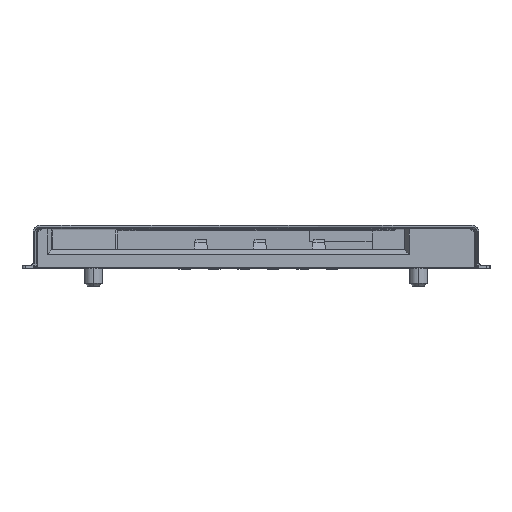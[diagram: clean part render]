
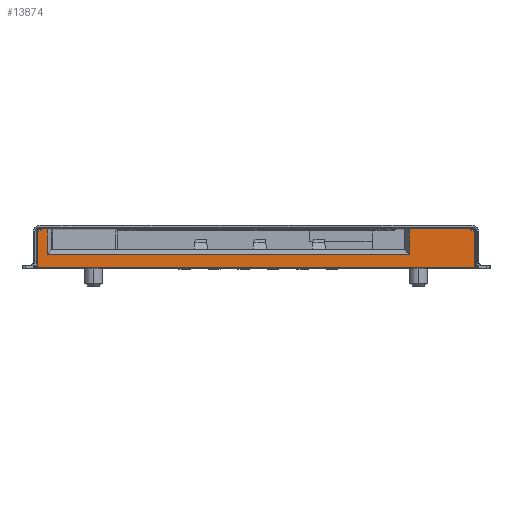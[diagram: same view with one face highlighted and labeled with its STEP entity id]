
A CAD part, top view. The second image highlights one B-rep face of the part: STEP entity #13874.
In plain terms, the highlighted planar face has unit normal (0, 0, 1).
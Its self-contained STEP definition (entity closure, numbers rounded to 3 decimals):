
#647=DIRECTION('',(1.,0.,0.));
#648=VECTOR('',#647,2.6);
#649=CARTESIAN_POINT('',(6.6,0.825,13.425));
#650=LINE('',#649,#648);
#1289=DIRECTION('',(0.,1.,0.));
#1290=VECTOR('',#1289,1.1);
#1291=CARTESIAN_POINT('',(-9.,-0.275,13.425));
#1292=LINE('',#1291,#1290);
#2156=DIRECTION('',(0.,1.,0.));
#2157=VECTOR('',#2156,1.5);
#2158=CARTESIAN_POINT('',(9.4,-0.825,13.425));
#2159=LINE('',#2158,#2157);
#2216=DIRECTION('',(-1.,0.,0.));
#2217=VECTOR('',#2216,18.8);
#2218=CARTESIAN_POINT('',(9.4,-0.825,13.425));
#2219=LINE('',#2218,#2217);
#2220=DIRECTION('',(0.,1.,0.));
#2221=VECTOR('',#2220,1.5);
#2222=CARTESIAN_POINT('',(-9.4,-0.825,13.425));
#2223=LINE('',#2222,#2221);
#2224=DIRECTION('',(0.8,0.6,0.));
#2225=VECTOR('',#2224,0.25);
#2226=CARTESIAN_POINT('',(-9.4,0.675,13.425));
#2227=LINE('',#2226,#2225);
#2228=DIRECTION('',(1.,0.,0.));
#2229=VECTOR('',#2228,0.2);
#2230=CARTESIAN_POINT('',(-9.2,0.825,13.425));
#2231=LINE('',#2230,#2229);
#2232=DIRECTION('',(0.8,-0.6,0.));
#2233=VECTOR('',#2232,0.25);
#2234=CARTESIAN_POINT('',(9.2,0.825,13.425));
#2235=LINE('',#2234,#2233);
#3580=DIRECTION('',(1.,0.,0.));
#3581=VECTOR('',#3580,15.6);
#3582=CARTESIAN_POINT('',(-9.,-0.275,13.425));
#3583=LINE('',#3582,#3581);
#3818=DIRECTION('',(0.,-1.,0.));
#3819=VECTOR('',#3818,1.1);
#3820=CARTESIAN_POINT('',(6.6,0.825,13.425));
#3821=LINE('',#3820,#3819);
#8374=CARTESIAN_POINT('',(9.4,-0.825,13.425));
#8375=VERTEX_POINT('',#8374);
#8376=CARTESIAN_POINT('',(-9.4,-0.825,13.425));
#8377=VERTEX_POINT('',#8376);
#8562=CARTESIAN_POINT('',(-9.4,0.675,13.425));
#8563=VERTEX_POINT('',#8562);
#8616=CARTESIAN_POINT('',(-9.2,0.825,13.425));
#8617=CARTESIAN_POINT('',(-9.,0.825,13.425));
#8618=VERTEX_POINT('',#8616);
#8619=VERTEX_POINT('',#8617);
#8622=CARTESIAN_POINT('',(9.4,0.675,13.425));
#8623=VERTEX_POINT('',#8622);
#8624=CARTESIAN_POINT('',(9.2,0.825,13.425));
#8625=VERTEX_POINT('',#8624);
#8626=CARTESIAN_POINT('',(6.6,0.825,13.425));
#8627=VERTEX_POINT('',#8626);
#8628=CARTESIAN_POINT('',(6.6,-0.275,13.425));
#8629=VERTEX_POINT('',#8628);
#8630=CARTESIAN_POINT('',(-9.,-0.275,13.425));
#8631=VERTEX_POINT('',#8630);
#13852=CARTESIAN_POINT('',(0.,0.,13.425));
#13853=DIRECTION('',(0.,0.,1.));
#13854=DIRECTION('',(-1.,0.,0.));
#13855=AXIS2_PLACEMENT_3D('',#13852,#13853,#13854);
#13856=PLANE('',#13855);
#13857=ORIENTED_EDGE('',*,*,#12891,.T.);
#13859=ORIENTED_EDGE('',*,*,#13858,.T.);
#13861=ORIENTED_EDGE('',*,*,#13860,.T.);
#13862=ORIENTED_EDGE('',*,*,#12420,.T.);
#13863=ORIENTED_EDGE('',*,*,#12475,.F.);
#13865=ORIENTED_EDGE('',*,*,#13864,.T.);
#13867=ORIENTED_EDGE('',*,*,#13866,.F.);
#13868=ORIENTED_EDGE('',*,*,#11746,.T.);
#13870=ORIENTED_EDGE('',*,*,#13869,.T.);
#13871=ORIENTED_EDGE('',*,*,#13794,.F.);
#13872=EDGE_LOOP('',(#13857,#13859,#13861,#13862,#13863,#13865,#13867,#13868,
#13870,#13871));
#13873=FACE_OUTER_BOUND('',#13872,.F.);
#11746=EDGE_CURVE('',#8627,#8625,#650,.T.);
#12420=EDGE_CURVE('',#8618,#8619,#2231,.T.);
#12475=EDGE_CURVE('',#8631,#8619,#1292,.T.);
#12891=EDGE_CURVE('',#8375,#8377,#2219,.T.);
#13794=EDGE_CURVE('',#8375,#8623,#2159,.T.);
#13858=EDGE_CURVE('',#8377,#8563,#2223,.T.);
#13860=EDGE_CURVE('',#8563,#8618,#2227,.T.);
#13864=EDGE_CURVE('',#8631,#8629,#3583,.T.);
#13866=EDGE_CURVE('',#8627,#8629,#3821,.T.);
#13869=EDGE_CURVE('',#8625,#8623,#2235,.T.);
#13874=ADVANCED_FACE('',(#13873),#13856,.T.);
